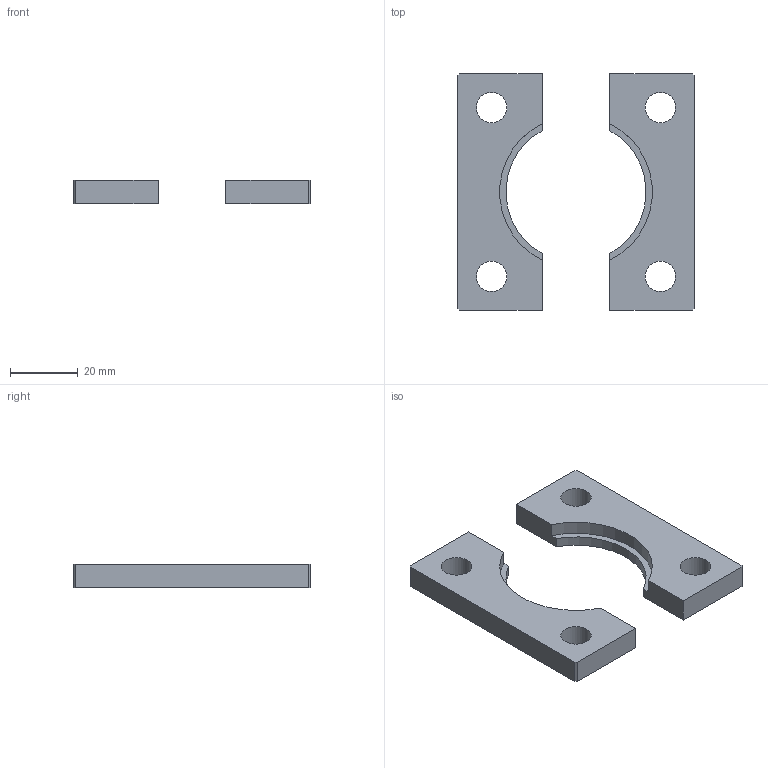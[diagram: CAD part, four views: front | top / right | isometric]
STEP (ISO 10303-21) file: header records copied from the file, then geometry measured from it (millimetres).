
FILE_DESCRIPTION(/* description */ (''),/* implementation_level */ '2;1');
FILE_NAME(/* name */ 'C:\Users\Jefferson\Desktop\Biblioteca Pro Nitro 2024\Flanges\PNB-55-XXX\PNB-55-045.stp',/* time_stamp */ '2024-01-26T11:37:30-03:00',/* author */ ('Jefferson'),/* organization */ (''),/* preprocessor_version */ 'ST-DEVELOPER v18.1',/* originating_system */ 'Autodesk Inventor 2021',/* authorisation */ '');
FILE_SCHEMA (('AUTOMOTIVE_DESIGN { 1 0 10303 214 3 1 1 }'));
Length unit declared in the file: millimetre
Products named in the file (1): PNB-55-045
Bounding box: 70 x 70 x 7 mm (x, y, z)
Volume: 18120.1 mm3; surface area: 8961.7 mm2
Topology: 2 solids, 2 shells, 187 faces, 504 edges, 336 vertices
Faces by surface type: plane 106, bspline 73, cylinder 8
Full cylindrical faces by diameter (mm): 9 x4
Entity records: 6248 total; most frequent: CARTESIAN_POINT 1977, ORIENTED_EDGE 1008, DIRECTION 604, EDGE_CURVE 504, LINE 342, VECTOR 342, VERTEX_POINT 336, EDGE_LOOP 210
